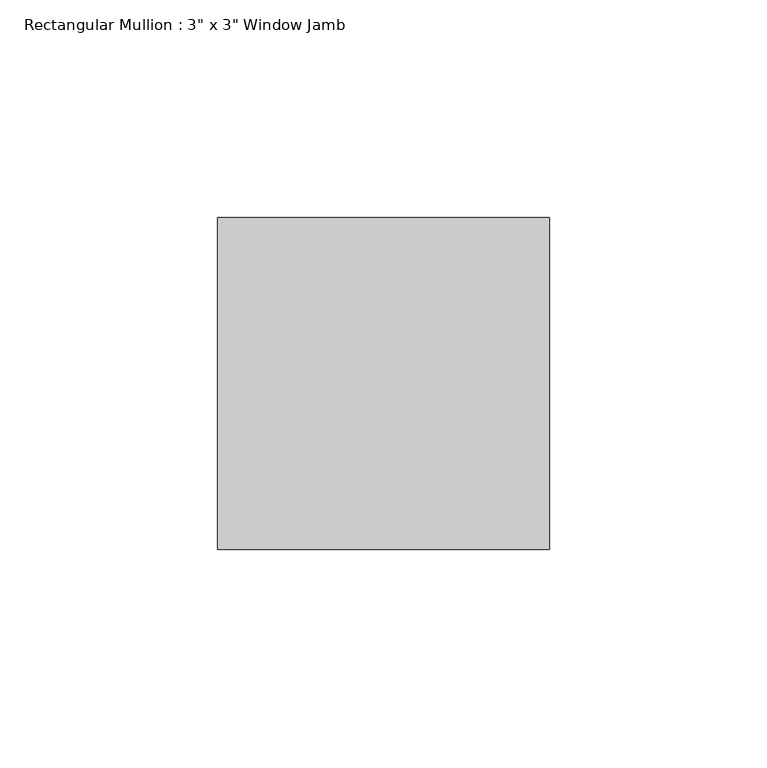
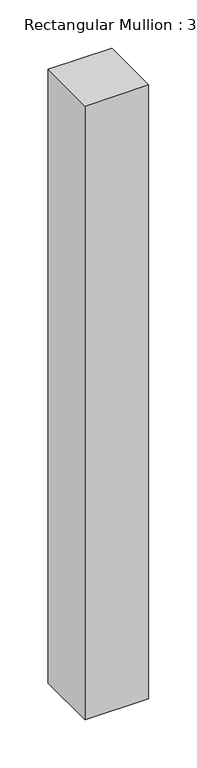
"""IFC4 building model written with IfcOpenShell, lengths in millimetres: member geometry."""

import ifcopenshell
import ifcopenshell.guid

model = None  # the IFC model being written
_history = None  # IfcOwnerHistory: only IFC2X3 demands one
_inside = {}  # id of a spatial element -> (the spatial element, [elements in it])
_under = {}  # id of a project, library or spatial element -> (it, [spatial elements below it])
_declared = {}  # id of a project -> (the project, [libraries it declares])
_typed = {}  # id of a type object -> (the type object, [elements of that type])
_made_of = {}  # id of a material, layer set ... -> (it, [elements and type objects made of it])


def new_model(schema):
    """Start an empty IFC model of exactly this schema.

    Asked for "IFC4X3", IfcOpenShell would pick the latest addendum, in which some entities
    have other attributes; the version numbers below select the first issue.
    IFC2X3 requires an IfcOwnerHistory on every rooted entity: one is made here for all.
    """
    global model, _history
    if schema == "IFC4X3":
        model = ifcopenshell.file(schema_version=(4, 3, 0, 0))
    else:
        model = ifcopenshell.file(schema=schema)
    _inside.clear()
    _under.clear()
    _declared.clear()
    _typed.clear()
    _made_of.clear()
    _history = None
    if model.schema == "IFC2X3":
        org = make("IfcOrganization", Name="unknown")
        user = make(
            "IfcPersonAndOrganization",
            ThePerson=make("IfcPerson", FamilyName="unknown"),
            TheOrganization=org,
        )
        app = make(
            "IfcApplication",
            ApplicationDeveloper=org,
            Version="unknown",
            ApplicationFullName="unknown",
            ApplicationIdentifier="unknown",
        )
        _history = make(
            "IfcOwnerHistory",
            OwningUser=user,
            OwningApplication=app,
            ChangeAction="ADDED",
            CreationDate=0,
        )
    return model


def make(cls, **values):
    """One entity of the class cls with the attributes given. An attribute that is None is left unset."""
    return model.create_entity(
        cls, **{name: value for name, value in values.items() if value is not None}
    )


def rooted(cls, **values):
    """An entity with a GlobalId (a new one), such as an element, a storey or a relation."""
    return make(cls, GlobalId=ifcopenshell.guid.new(), OwnerHistory=_history, **values)


def si_unit(unit_type, name, prefix=None):
    """IfcSIUnit, for example si_unit("LENGTHUNIT", "METRE", prefix="MILLI")."""
    return make("IfcSIUnit", UnitType=unit_type, Prefix=prefix, Name=name)


def assignment(units):
    """IfcUnitAssignment: the units of a project."""
    return None if units is None else make("IfcUnitAssignment", Units=units)


def point(xyz):
    """IfcCartesianPoint."""
    return None if xyz is None else make("IfcCartesianPoint", Coordinates=xyz)


def direction(xyz):
    """IfcDirection."""
    return None if xyz is None else make("IfcDirection", DirectionRatios=xyz)


def frame(location, z_axis=None, x_axis=None):
    """IfcAxis2Placement3D, a coordinate frame: its origin and axes. An axis left out is left unset."""
    return make(
        "IfcAxis2Placement3D",
        Location=point(location),
        Axis=direction(z_axis),
        RefDirection=direction(x_axis),
    )


def origin():
    """The frame at (0, 0, 0) with its axes left unset."""
    return frame((0.0, 0.0, 0.0))


def place(relative_to, where):
    """IfcLocalPlacement: puts the frame where relative to a parent placement (None: the world)."""
    return make(
        "IfcLocalPlacement", PlacementRelTo=relative_to, RelativePlacement=where
    )


def context(
    kind, dimensions, precision=None, world=None, true_north=None, identifier=None
):
    """IfcGeometricRepresentationContext, for example the 3D "Model" context."""
    return make(
        "IfcGeometricRepresentationContext",
        ContextIdentifier=identifier,
        ContextType=kind,
        CoordinateSpaceDimension=dimensions,
        Precision=precision,
        WorldCoordinateSystem=world,
        TrueNorth=true_north,
    )


def project(units=None, contexts=None):
    """IfcProject with its units and contexts."""
    return rooted(
        "IfcProject",
        Name="project",
        RepresentationContexts=contexts,
        UnitsInContext=assignment(units),
    )


def spatial(cls, under=None, at=None, **own):
    """A site, building, storey or space (cls), placed at a placement, below another one or the project."""
    s = rooted(cls, ObjectPlacement=at, **own)
    if under is not None:
        _under.setdefault(under.id(), (under, []))[1].append(s)
    return s


def polyline(points):
    """IfcPolyline through the points."""
    return make("IfcPolyline", Points=[point(p) for p in points])


def outline(outer, holes=None, kind="AREA"):
    """IfcArbitraryClosedProfileDef: a profile drawn as a closed curve; with holes, ...WithVoids."""
    if holes is None:
        return make("IfcArbitraryClosedProfileDef", ProfileType=kind, OuterCurve=outer)
    return make(
        "IfcArbitraryProfileDefWithVoids",
        ProfileType=kind,
        OuterCurve=outer,
        InnerCurves=holes,
    )


def extrude(swept, where, along, depth):
    """IfcExtrudedAreaSolid: the profile swept, set in the frame where, extruded along a direction by depth."""
    return make(
        "IfcExtrudedAreaSolid",
        SweptArea=swept,
        Position=where,
        ExtrudedDirection=direction(along),
        Depth=depth,
    )


def shape(context_of_items, identifier, shape_type, items):
    """IfcShapeRepresentation: the items that make up one representation, for example the "Body"."""
    return make(
        "IfcShapeRepresentation",
        ContextOfItems=context_of_items,
        RepresentationIdentifier=identifier,
        RepresentationType=shape_type,
        Items=items,
    )


def source(mapping_origin, context_of_items, identifier, shape_type, items):
    """IfcRepresentationMap: a shape defined once, which mapped items show again and again."""
    return make(
        "IfcRepresentationMap",
        MappingOrigin=mapping_origin,
        MappedRepresentation=shape(context_of_items, identifier, shape_type, items),
    )


def transform(
    local_origin,
    x_axis=None,
    y_axis=None,
    z_axis=None,
    scale=None,
    scale2=None,
    scale3=None,
    uniform=True,
):
    """IfcCartesianTransformationOperator3D, or its non-uniform kind. x_axis, y_axis, z_axis: its Axis1, 2, 3."""
    if uniform:
        return make(
            "IfcCartesianTransformationOperator3D",
            Axis1=direction(x_axis),
            Axis2=direction(y_axis),
            LocalOrigin=point(local_origin),
            Scale=scale,
            Axis3=direction(z_axis),
        )
    return make(
        "IfcCartesianTransformationOperator3DnonUniform",
        Axis1=direction(x_axis),
        Axis2=direction(y_axis),
        LocalOrigin=point(local_origin),
        Scale=scale,
        Axis3=direction(z_axis),
        Scale2=scale2,
        Scale3=scale3,
    )


def mapped(mapping_source, mapping_target):
    """IfcMappedItem: shows the shape of a source again, moved by a transform."""
    return make(
        "IfcMappedItem", MappingSource=mapping_source, MappingTarget=mapping_target
    )


def made_of(thing, what):
    """Note that an element or type object is made of a material, layer set ...; save() writes the relation."""
    if what is not None:
        _made_of.setdefault(what.id(), (what, []))[1].append(thing)
    return thing


def element(
    cls,
    number,
    at=None,
    inside=None,
    cuts=None,
    type_object=None,
    material=None,
    context=None,
    identifier="Body",
    shape_type=None,
    held_by="IfcProductDefinitionShape",
    body=None,
    shapes=None,
    **own,
):
    """One element of the class cls, such as IfcWall. Its Tag is "e" and its number.

    at: its placement. inside: the storey or other place that contains it. cuts: it is an
    opening in that element (IfcRelVoidsElement). A single representation is given by context,
    identifier, shape_type and body (its items); several are given by shapes. held_by: the class
    of the entity that holds the representations. save() writes the other relations.
    """
    e = rooted(cls, Tag="e%d" % number, ObjectPlacement=at, **own)
    if body is not None:
        shapes = [shape(context, identifier, shape_type, body)]
    if shapes is not None:
        e.Representation = make(held_by, Representations=shapes)
    if inside is not None:
        _inside.setdefault(inside.id(), (inside, []))[1].append(e)
    if cuts is not None:
        rooted(
            "IfcRelVoidsElement", RelatingBuildingElement=cuts, RelatedOpeningElement=e
        )
    if type_object is not None:
        _typed.setdefault(type_object.id(), (type_object, []))[1].append(e)
    return made_of(e, material)


def aggregate(whole, parts):
    """IfcRelAggregates: a whole, such as a stair, and the parts it consists of."""
    return rooted("IfcRelAggregates", RelatingObject=whole, RelatedObjects=parts)


def save(model, path):
    """Write the relations noted so far, then the file.

    IfcRelAggregates (storeys below a building ...), IfcRelContainedInSpatialStructure (elements
    in a storey), IfcRelDefinesByType, IfcRelAssociatesMaterial and IfcRelDeclares: one each for
    every whole, place, type object, material and project.
    """
    for whole, parts in _under.values():
        aggregate(whole, parts)
    for where, things in _inside.values():
        rooted(
            "IfcRelContainedInSpatialStructure",
            RelatedElements=things,
            RelatingStructure=where,
        )
    for kind, things in _typed.values():
        rooted("IfcRelDefinesByType", RelatedObjects=things, RelatingType=kind)
    for what, things in _made_of.values():
        rooted("IfcRelAssociatesMaterial", RelatedObjects=things, RelatingMaterial=what)
    for by, libraries in _declared.values():
        rooted("IfcRelDeclares", RelatingContext=by, RelatedDefinitions=libraries)
    model.write(path)


def member_9007e3de(model_context):
    return source(origin(), model_context, "Body", "SweptSolid", [
        extrude(outline(polyline([(0.0, 50.8), (0.0, -25.4), (-76.2, -25.4), (-76.2, 50.8), (0.0, 50.8)])), frame((0.0, 0.0, -775.2593785), z_axis=(0.0, 0.0, 1.0), x_axis=(1.0, 0.0, 0.0)), (0.0, 0.0, 1.0), 775.2593785),
    ])


if __name__ == "__main__":
    model = new_model("IFC4")
    model_context = context("Model", 3, world=origin())
    ifc_project = project(units=[si_unit("LENGTHUNIT", "METRE", prefix="MILLI")], contexts=[model_context])
    site = spatial("IfcSite", under=ifc_project)
    building = spatial("IfcBuilding", under=site)
    placement = place(None, origin())
    member_shape = member_9007e3de(model_context)
    element("IfcMember", 1, ObjectType="Rectangular Mullion : 3\" x 3\" Window Jamb", at=placement, inside=building, context=model_context, shape_type="MappedRepresentation", body=[
        mapped(member_shape, transform((0.0, 0.0, 0.0), x_axis=(1.0, 0.0, 0.0), y_axis=(0.0, 1.0, 0.0), z_axis=(0.0, 0.0, 1.0))),
    ])
    save(model, "model.ifc")
